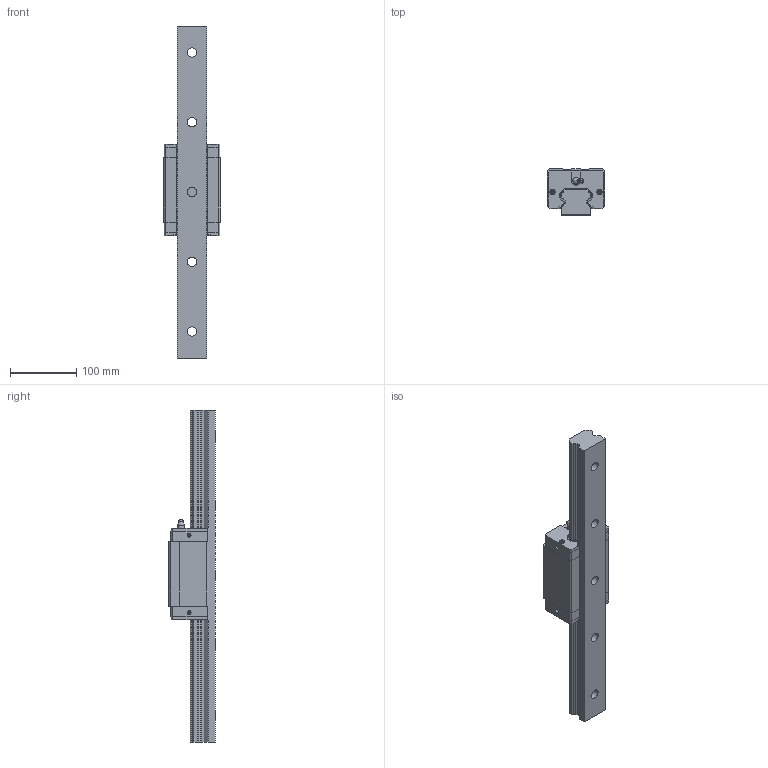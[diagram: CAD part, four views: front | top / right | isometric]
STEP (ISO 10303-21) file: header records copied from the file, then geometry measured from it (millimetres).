
FILE_DESCRIPTION(/* description */ ('STEP AP203'),/* implementation_level */ '2;1');
FILE_NAME(/* name */ 'D:\FOLDER Tomasz Michałek\pliki z pulpitu\Katalogi inne\Technika liniowa\NATECH\Modele 3D\NATECH linear block 3D drawing\NGH\NGH45CA\NGH45CA1R500.stp',/* time_stamp */ '2021-01-21T17:10:13+01:00',/* author */ ('dnia_tomasz_tm'),/* organization */ ('IT'),/* preprocessor_version */ 'ST-DEVELOPER v16.13',/* originating_system */ 'Autodesk Inventor 2018',/* authorisation */ '');
FILE_SCHEMA (('AUTOMOTIVE_DESIGN { 1 0 10303 214 3 1 1 }'));
Length unit declared in the file: millimetre
Products named in the file (3): NGH45CA1R500ZACI; GHH45CA1R500ZACI_1_GHH45CA; GHH45CA1R500ZACI_2_GHH45CA
Assembly tree (2 placements, depth 2):
  NGH45CA1R500ZACI
    GHH45CA1R500ZACI_1_GHH45CA
    GHH45CA1R500ZACI_2_GHH45CA
Bounding box: 86 x 70 x 500 mm (x, y, z)
Volume: 1257116.7 mm3; surface area: 185600.7 mm2
Topology: 7 solids, 7 shells, 418 faces, 1080 edges, 711 vertices
Faces by surface type: plane 316, cylinder 64, cone 23, torus 9, sphere 5, bspline 1
Full cylindrical faces by diameter (mm): 0.818 x4, 4.5 x1, 6.06 x6, 6.674 x4, 8 x4, 8.342 x4, 10 x5, 14 x5, 20 x5
Entity records: 12390 total; most frequent: CARTESIAN_POINT 2242, ORIENTED_EDGE 2034, DIRECTION 2034, EDGE_CURVE 1017, LINE 770, VECTOR 770, VERTEX_POINT 702, AXIS2_PLACEMENT_3D 632
